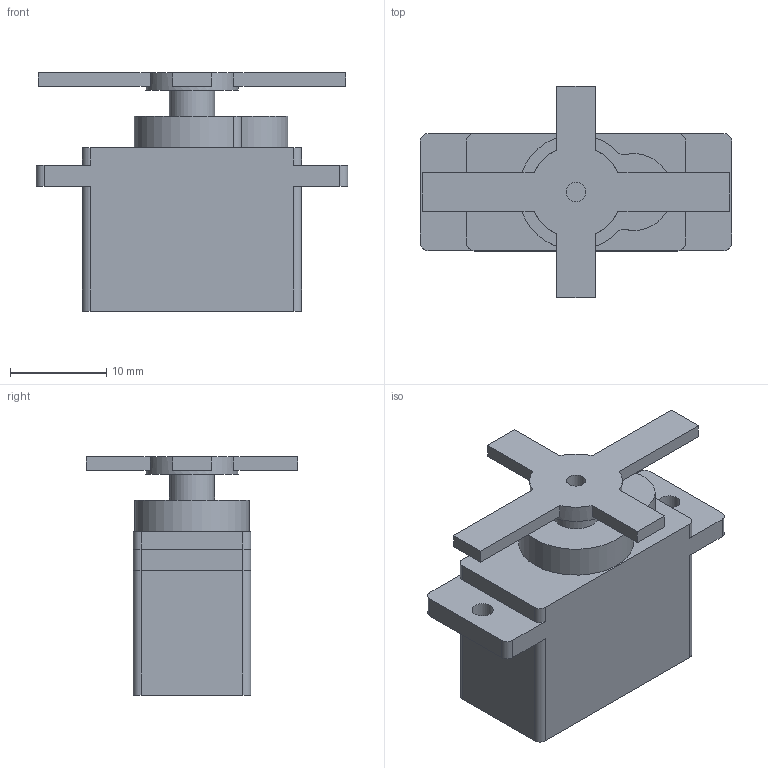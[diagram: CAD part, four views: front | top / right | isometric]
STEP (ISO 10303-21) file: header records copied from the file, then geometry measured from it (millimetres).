
FILE_DESCRIPTION(('Open CASCADE Model'),'2;1');
FILE_NAME('Open CASCADE Shape Model','2026-08-28T20:46:05',('Author'),( 'Open CASCADE'),'Open CASCADE STEP processor 7.8','Open CASCADE 7.8' ,'Unknown');
FILE_SCHEMA(('AUTOMOTIVE_DESIGN { 1 0 10303 214 1 1 1 1 }'));
Length unit declared in the file: millimetre
Products named in the file (3): SG90_Visual_Reference; SG90_Body; SG90_Cross_Horn
Assembly tree (2 placements, depth 2):
  SG90_Visual_Reference
    SG90_Body
    SG90_Cross_Horn
Bounding box: 32.4 x 22 x 24.8 mm (x, y, z)
Volume: 5798.2 mm3; surface area: 2789.3 mm2
Topology: 2 solids, 2 shells, 55 faces, 147 edges, 98 vertices
Faces by surface type: plane 34, cylinder 19, bspline 2
Full cylindrical faces by diameter (mm): 2 x1, 2.2 x2, 4.7 x1, 9.6 x1
Entity records: 3862 total; most frequent: CARTESIAN_POINT 885, DIRECTION 541, LINE 305, VECTOR 305, ORIENTED_EDGE 294, PCURVE 294, DEFINITIONAL_REPRESENTATION 294, EDGE_CURVE 147
